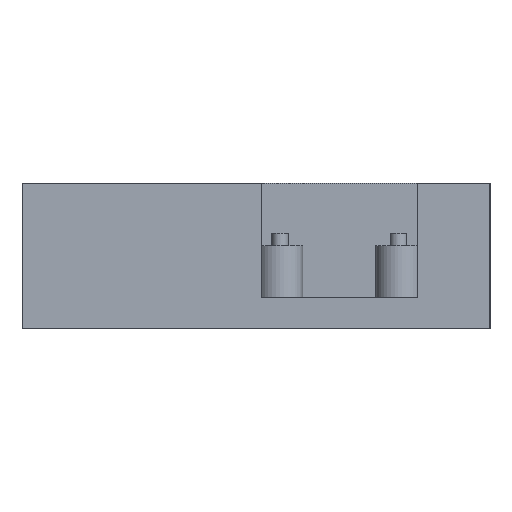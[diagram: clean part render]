
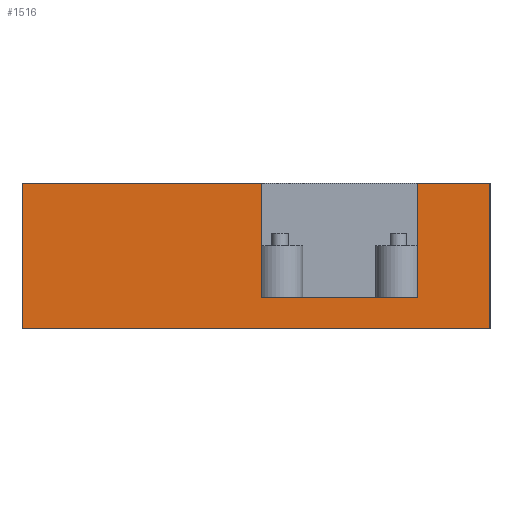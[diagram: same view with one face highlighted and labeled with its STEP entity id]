
A CAD part, left-side view. The second image highlights one B-rep face of the part: STEP entity #1516.
In plain terms, the highlighted planar face has unit normal (-1, 0, 0).
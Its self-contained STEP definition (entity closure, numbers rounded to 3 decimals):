
#538 = PLANE('',#539);
#539 = AXIS2_PLACEMENT_3D('',#540,#541,#542);
#540 = CARTESIAN_POINT('',(0.,0.,14.));
#541 = DIRECTION('',(0.,0.,1.));
#542 = DIRECTION('',(1.,0.,-0.));
#564 = PLANE('',#565);
#565 = AXIS2_PLACEMENT_3D('',#566,#567,#568);
#566 = CARTESIAN_POINT('',(-1.,22.,3.));
#567 = DIRECTION('',(-0.,1.,0.));
#568 = DIRECTION('',(0.,0.,1.));
#590 = PLANE('',#591);
#591 = AXIS2_PLACEMENT_3D('',#592,#593,#594);
#592 = CARTESIAN_POINT('',(-1.,7.,3.));
#593 = DIRECTION('',(0.,0.,1.));
#594 = DIRECTION('',(1.,0.,-0.));
#616 = PLANE('',#617);
#617 = AXIS2_PLACEMENT_3D('',#618,#619,#620);
#618 = CARTESIAN_POINT('',(-1.,7.,3.));
#619 = DIRECTION('',(-0.,1.,0.));
#620 = DIRECTION('',(0.,0.,1.));
#1043 = EDGE_CURVE('',#1044,#1046,#1048,.T.);
#1044 = VERTEX_POINT('',#1045);
#1045 = CARTESIAN_POINT('',(0.,0.,14.));
#1046 = VERTEX_POINT('',#1047);
#1047 = CARTESIAN_POINT('',(0.,7.,14.));
#1048 = SURFACE_CURVE('',#1049,(#1053,#1060),.PCURVE_S1.);
#1049 = LINE('',#1050,#1051);
#1050 = CARTESIAN_POINT('',(0.,0.,14.));
#1051 = VECTOR('',#1052,1.);
#1052 = DIRECTION('',(-0.,1.,0.));
#1053 = PCURVE('',#538,#1054);
#1054 = DEFINITIONAL_REPRESENTATION('',(#1055),#1059);
#1055 = LINE('',#1056,#1057);
#1056 = CARTESIAN_POINT('',(0.,0.));
#1057 = VECTOR('',#1058,1.);
#1058 = DIRECTION('',(0.,1.));
#1059 = ( GEOMETRIC_REPRESENTATION_CONTEXT(2) 
PARAMETRIC_REPRESENTATION_CONTEXT() REPRESENTATION_CONTEXT('2D SPACE',''
  ) );
#1060 = PCURVE('',#1061,#1066);
#1061 = PLANE('',#1062);
#1062 = AXIS2_PLACEMENT_3D('',#1063,#1064,#1065);
#1063 = CARTESIAN_POINT('',(0.,0.,0.));
#1064 = DIRECTION('',(1.,0.,-0.));
#1065 = DIRECTION('',(0.,0.,1.));
#1066 = DEFINITIONAL_REPRESENTATION('',(#1067),#1071);
#1067 = LINE('',#1068,#1069);
#1068 = CARTESIAN_POINT('',(14.,0.));
#1069 = VECTOR('',#1070,1.);
#1070 = DIRECTION('',(0.,-1.));
#1071 = ( GEOMETRIC_REPRESENTATION_CONTEXT(2) 
PARAMETRIC_REPRESENTATION_CONTEXT() REPRESENTATION_CONTEXT('2D SPACE',''
  ) );
#1089 = PLANE('',#1090);
#1090 = AXIS2_PLACEMENT_3D('',#1091,#1092,#1093);
#1091 = CARTESIAN_POINT('',(0.,0.,0.));
#1092 = DIRECTION('',(-0.,1.,0.));
#1093 = DIRECTION('',(0.,0.,1.));
#1130 = VERTEX_POINT('',#1131);
#1131 = CARTESIAN_POINT('',(0.,45.,14.));
#1145 = PLANE('',#1146);
#1146 = AXIS2_PLACEMENT_3D('',#1147,#1148,#1149);
#1147 = CARTESIAN_POINT('',(0.,45.,0.));
#1148 = DIRECTION('',(-0.,1.,0.));
#1149 = DIRECTION('',(0.,0.,1.));
#1157 = EDGE_CURVE('',#1158,#1130,#1160,.T.);
#1158 = VERTEX_POINT('',#1159);
#1159 = CARTESIAN_POINT('',(0.,22.,14.));
#1160 = SURFACE_CURVE('',#1161,(#1165,#1172),.PCURVE_S1.);
#1161 = LINE('',#1162,#1163);
#1162 = CARTESIAN_POINT('',(0.,0.,14.));
#1163 = VECTOR('',#1164,1.);
#1164 = DIRECTION('',(-0.,1.,0.));
#1165 = PCURVE('',#538,#1166);
#1166 = DEFINITIONAL_REPRESENTATION('',(#1167),#1171);
#1167 = LINE('',#1168,#1169);
#1168 = CARTESIAN_POINT('',(0.,0.));
#1169 = VECTOR('',#1170,1.);
#1170 = DIRECTION('',(0.,1.));
#1171 = ( GEOMETRIC_REPRESENTATION_CONTEXT(2) 
PARAMETRIC_REPRESENTATION_CONTEXT() REPRESENTATION_CONTEXT('2D SPACE',''
  ) );
#1172 = PCURVE('',#1061,#1173);
#1173 = DEFINITIONAL_REPRESENTATION('',(#1174),#1178);
#1174 = LINE('',#1175,#1176);
#1175 = CARTESIAN_POINT('',(14.,0.));
#1176 = VECTOR('',#1177,1.);
#1177 = DIRECTION('',(0.,-1.));
#1178 = ( GEOMETRIC_REPRESENTATION_CONTEXT(2) 
PARAMETRIC_REPRESENTATION_CONTEXT() REPRESENTATION_CONTEXT('2D SPACE',''
  ) );
#1227 = VERTEX_POINT('',#1228);
#1228 = CARTESIAN_POINT('',(0.,7.,3.));
#1249 = EDGE_CURVE('',#1227,#1046,#1250,.T.);
#1250 = SURFACE_CURVE('',#1251,(#1255,#1261),.PCURVE_S1.);
#1251 = LINE('',#1252,#1253);
#1252 = CARTESIAN_POINT('',(0.,7.,1.5));
#1253 = VECTOR('',#1254,1.);
#1254 = DIRECTION('',(0.,0.,1.));
#1255 = PCURVE('',#616,#1256);
#1256 = DEFINITIONAL_REPRESENTATION('',(#1257),#1260);
#1257 = B_SPLINE_CURVE_WITH_KNOTS('',1,(#1258,#1259),.UNSPECIFIED.,.F.,
  .F.,(2,2),(1.5,12.5),.PIECEWISE_BEZIER_KNOTS.);
#1258 = CARTESIAN_POINT('',(0.,1.));
#1259 = CARTESIAN_POINT('',(11.,1.));
#1260 = ( GEOMETRIC_REPRESENTATION_CONTEXT(2) 
PARAMETRIC_REPRESENTATION_CONTEXT() REPRESENTATION_CONTEXT('2D SPACE',''
  ) );
#1261 = PCURVE('',#1061,#1262);
#1262 = DEFINITIONAL_REPRESENTATION('',(#1263),#1266);
#1263 = B_SPLINE_CURVE_WITH_KNOTS('',1,(#1264,#1265),.UNSPECIFIED.,.F.,
  .F.,(2,2),(1.5,12.5),.PIECEWISE_BEZIER_KNOTS.);
#1264 = CARTESIAN_POINT('',(3.,-7.));
#1265 = CARTESIAN_POINT('',(14.,-7.));
#1266 = ( GEOMETRIC_REPRESENTATION_CONTEXT(2) 
PARAMETRIC_REPRESENTATION_CONTEXT() REPRESENTATION_CONTEXT('2D SPACE',''
  ) );
#1274 = VERTEX_POINT('',#1275);
#1275 = CARTESIAN_POINT('',(0.,22.,3.));
#1296 = EDGE_CURVE('',#1274,#1227,#1297,.T.);
#1297 = SURFACE_CURVE('',#1298,(#1302,#1308),.PCURVE_S1.);
#1298 = LINE('',#1299,#1300);
#1299 = CARTESIAN_POINT('',(0.,3.5,3.));
#1300 = VECTOR('',#1301,1.);
#1301 = DIRECTION('',(0.,-1.,0.));
#1302 = PCURVE('',#590,#1303);
#1303 = DEFINITIONAL_REPRESENTATION('',(#1304),#1307);
#1304 = B_SPLINE_CURVE_WITH_KNOTS('',1,(#1305,#1306),.UNSPECIFIED.,.F.,
  .F.,(2,2),(-18.5,-3.5),.PIECEWISE_BEZIER_KNOTS.);
#1305 = CARTESIAN_POINT('',(1.,15.));
#1306 = CARTESIAN_POINT('',(1.,0.));
#1307 = ( GEOMETRIC_REPRESENTATION_CONTEXT(2) 
PARAMETRIC_REPRESENTATION_CONTEXT() REPRESENTATION_CONTEXT('2D SPACE',''
  ) );
#1308 = PCURVE('',#1061,#1309);
#1309 = DEFINITIONAL_REPRESENTATION('',(#1310),#1313);
#1310 = B_SPLINE_CURVE_WITH_KNOTS('',1,(#1311,#1312),.UNSPECIFIED.,.F.,
  .F.,(2,2),(-18.5,-3.5),.PIECEWISE_BEZIER_KNOTS.);
#1311 = CARTESIAN_POINT('',(3.,-22.));
#1312 = CARTESIAN_POINT('',(3.,-7.));
#1313 = ( GEOMETRIC_REPRESENTATION_CONTEXT(2) 
PARAMETRIC_REPRESENTATION_CONTEXT() REPRESENTATION_CONTEXT('2D SPACE',''
  ) );
#1321 = EDGE_CURVE('',#1274,#1158,#1322,.T.);
#1322 = SURFACE_CURVE('',#1323,(#1327,#1333),.PCURVE_S1.);
#1323 = LINE('',#1324,#1325);
#1324 = CARTESIAN_POINT('',(0.,22.,1.5));
#1325 = VECTOR('',#1326,1.);
#1326 = DIRECTION('',(0.,0.,1.));
#1327 = PCURVE('',#564,#1328);
#1328 = DEFINITIONAL_REPRESENTATION('',(#1329),#1332);
#1329 = B_SPLINE_CURVE_WITH_KNOTS('',1,(#1330,#1331),.UNSPECIFIED.,.F.,
  .F.,(2,2),(1.5,12.5),.PIECEWISE_BEZIER_KNOTS.);
#1330 = CARTESIAN_POINT('',(0.,1.));
#1331 = CARTESIAN_POINT('',(11.,1.));
#1332 = ( GEOMETRIC_REPRESENTATION_CONTEXT(2) 
PARAMETRIC_REPRESENTATION_CONTEXT() REPRESENTATION_CONTEXT('2D SPACE',''
  ) );
#1333 = PCURVE('',#1061,#1334);
#1334 = DEFINITIONAL_REPRESENTATION('',(#1335),#1338);
#1335 = B_SPLINE_CURVE_WITH_KNOTS('',1,(#1336,#1337),.UNSPECIFIED.,.F.,
  .F.,(2,2),(1.5,12.5),.PIECEWISE_BEZIER_KNOTS.);
#1336 = CARTESIAN_POINT('',(3.,-22.));
#1337 = CARTESIAN_POINT('',(14.,-22.));
#1338 = ( GEOMETRIC_REPRESENTATION_CONTEXT(2) 
PARAMETRIC_REPRESENTATION_CONTEXT() REPRESENTATION_CONTEXT('2D SPACE',''
  ) );
#1516 = ADVANCED_FACE('',(#1517),#1061,.F.);
#1517 = FACE_BOUND('',#1518,.F.);
#1518 = EDGE_LOOP('',(#1519,#1520,#1543,#1571,#1592,#1593,#1594,#1595));
#1519 = ORIENTED_EDGE('',*,*,#1043,.F.);
#1520 = ORIENTED_EDGE('',*,*,#1521,.F.);
#1521 = EDGE_CURVE('',#1522,#1044,#1524,.T.);
#1522 = VERTEX_POINT('',#1523);
#1523 = CARTESIAN_POINT('',(0.,0.,0.));
#1524 = SURFACE_CURVE('',#1525,(#1529,#1536),.PCURVE_S1.);
#1525 = LINE('',#1526,#1527);
#1526 = CARTESIAN_POINT('',(0.,0.,0.));
#1527 = VECTOR('',#1528,1.);
#1528 = DIRECTION('',(0.,0.,1.));
#1529 = PCURVE('',#1061,#1530);
#1530 = DEFINITIONAL_REPRESENTATION('',(#1531),#1535);
#1531 = LINE('',#1532,#1533);
#1532 = CARTESIAN_POINT('',(0.,0.));
#1533 = VECTOR('',#1534,1.);
#1534 = DIRECTION('',(1.,0.));
#1535 = ( GEOMETRIC_REPRESENTATION_CONTEXT(2) 
PARAMETRIC_REPRESENTATION_CONTEXT() REPRESENTATION_CONTEXT('2D SPACE',''
  ) );
#1536 = PCURVE('',#1089,#1537);
#1537 = DEFINITIONAL_REPRESENTATION('',(#1538),#1542);
#1538 = LINE('',#1539,#1540);
#1539 = CARTESIAN_POINT('',(0.,0.));
#1540 = VECTOR('',#1541,1.);
#1541 = DIRECTION('',(1.,0.));
#1542 = ( GEOMETRIC_REPRESENTATION_CONTEXT(2) 
PARAMETRIC_REPRESENTATION_CONTEXT() REPRESENTATION_CONTEXT('2D SPACE',''
  ) );
#1543 = ORIENTED_EDGE('',*,*,#1544,.T.);
#1544 = EDGE_CURVE('',#1522,#1545,#1547,.T.);
#1545 = VERTEX_POINT('',#1546);
#1546 = CARTESIAN_POINT('',(0.,45.,0.));
#1547 = SURFACE_CURVE('',#1548,(#1552,#1559),.PCURVE_S1.);
#1548 = LINE('',#1549,#1550);
#1549 = CARTESIAN_POINT('',(0.,0.,0.));
#1550 = VECTOR('',#1551,1.);
#1551 = DIRECTION('',(-0.,1.,0.));
#1552 = PCURVE('',#1061,#1553);
#1553 = DEFINITIONAL_REPRESENTATION('',(#1554),#1558);
#1554 = LINE('',#1555,#1556);
#1555 = CARTESIAN_POINT('',(0.,0.));
#1556 = VECTOR('',#1557,1.);
#1557 = DIRECTION('',(0.,-1.));
#1558 = ( GEOMETRIC_REPRESENTATION_CONTEXT(2) 
PARAMETRIC_REPRESENTATION_CONTEXT() REPRESENTATION_CONTEXT('2D SPACE',''
  ) );
#1559 = PCURVE('',#1560,#1565);
#1560 = PLANE('',#1561);
#1561 = AXIS2_PLACEMENT_3D('',#1562,#1563,#1564);
#1562 = CARTESIAN_POINT('',(0.,0.,0.));
#1563 = DIRECTION('',(0.,0.,1.));
#1564 = DIRECTION('',(1.,0.,-0.));
#1565 = DEFINITIONAL_REPRESENTATION('',(#1566),#1570);
#1566 = LINE('',#1567,#1568);
#1567 = CARTESIAN_POINT('',(0.,0.));
#1568 = VECTOR('',#1569,1.);
#1569 = DIRECTION('',(0.,1.));
#1570 = ( GEOMETRIC_REPRESENTATION_CONTEXT(2) 
PARAMETRIC_REPRESENTATION_CONTEXT() REPRESENTATION_CONTEXT('2D SPACE',''
  ) );
#1571 = ORIENTED_EDGE('',*,*,#1572,.T.);
#1572 = EDGE_CURVE('',#1545,#1130,#1573,.T.);
#1573 = SURFACE_CURVE('',#1574,(#1578,#1585),.PCURVE_S1.);
#1574 = LINE('',#1575,#1576);
#1575 = CARTESIAN_POINT('',(0.,45.,0.));
#1576 = VECTOR('',#1577,1.);
#1577 = DIRECTION('',(0.,0.,1.));
#1578 = PCURVE('',#1061,#1579);
#1579 = DEFINITIONAL_REPRESENTATION('',(#1580),#1584);
#1580 = LINE('',#1581,#1582);
#1581 = CARTESIAN_POINT('',(0.,-45.));
#1582 = VECTOR('',#1583,1.);
#1583 = DIRECTION('',(1.,0.));
#1584 = ( GEOMETRIC_REPRESENTATION_CONTEXT(2) 
PARAMETRIC_REPRESENTATION_CONTEXT() REPRESENTATION_CONTEXT('2D SPACE',''
  ) );
#1585 = PCURVE('',#1145,#1586);
#1586 = DEFINITIONAL_REPRESENTATION('',(#1587),#1591);
#1587 = LINE('',#1588,#1589);
#1588 = CARTESIAN_POINT('',(0.,0.));
#1589 = VECTOR('',#1590,1.);
#1590 = DIRECTION('',(1.,0.));
#1591 = ( GEOMETRIC_REPRESENTATION_CONTEXT(2) 
PARAMETRIC_REPRESENTATION_CONTEXT() REPRESENTATION_CONTEXT('2D SPACE',''
  ) );
#1592 = ORIENTED_EDGE('',*,*,#1157,.F.);
#1593 = ORIENTED_EDGE('',*,*,#1321,.F.);
#1594 = ORIENTED_EDGE('',*,*,#1296,.T.);
#1595 = ORIENTED_EDGE('',*,*,#1249,.T.);
